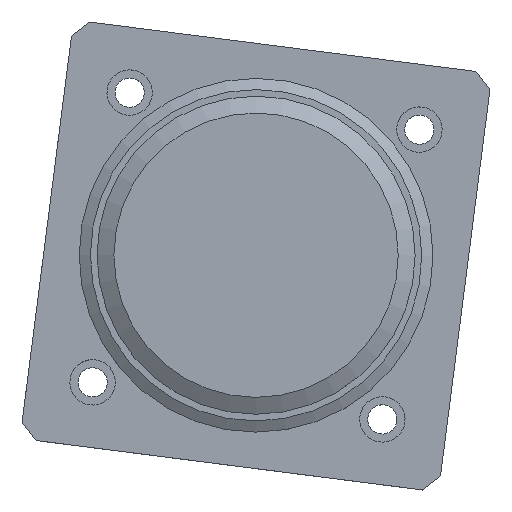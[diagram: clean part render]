
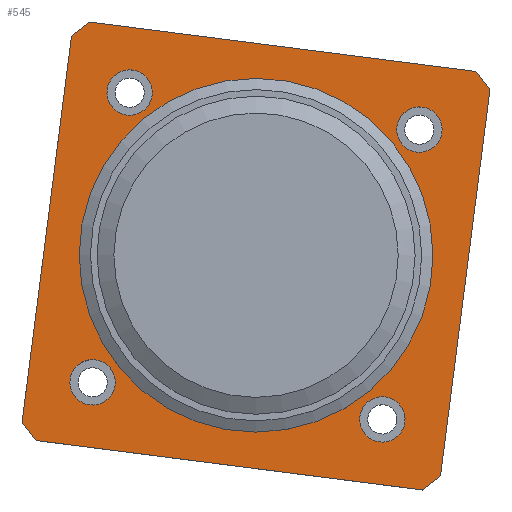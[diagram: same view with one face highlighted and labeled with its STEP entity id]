
A CAD part, top view. The second image highlights one B-rep face of the part: STEP entity #545.
In plain terms, the highlighted planar face has unit normal (0, 0, 1).
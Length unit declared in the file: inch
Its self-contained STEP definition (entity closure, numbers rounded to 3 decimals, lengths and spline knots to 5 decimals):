
#14=LINE('',#860,#38);
#15=LINE('',#862,#39);
#16=LINE('',#864,#40);
#17=LINE('',#866,#41);
#18=LINE('',#868,#42);
#19=LINE('',#870,#43);
#20=LINE('',#872,#44);
#21=LINE('',#873,#45);
#38=VECTOR('',#694,0.3937);
#39=VECTOR('',#695,0.3937);
#40=VECTOR('',#696,0.3937);
#41=VECTOR('',#697,0.3937);
#42=VECTOR('',#698,0.3937);
#43=VECTOR('',#699,0.3937);
#44=VECTOR('',#700,0.3937);
#45=VECTOR('',#701,0.3937);
#120=FACE_BOUND('',#201,.T.);
#121=FACE_BOUND('',#202,.T.);
#122=FACE_BOUND('',#203,.T.);
#123=FACE_BOUND('',#204,.T.);
#124=FACE_BOUND('',#205,.T.);
#157=FACE_OUTER_BOUND('',#200,.T.);
#200=EDGE_LOOP('',(#415,#416,#417,#418,#419,#420,#421,#422));
#201=EDGE_LOOP('',(#423));
#202=EDGE_LOOP('',(#424));
#203=EDGE_LOOP('',(#425));
#204=EDGE_LOOP('',(#426));
#205=EDGE_LOOP('',(#427));
#273=CIRCLE('',#610,0.27559);
#274=CIRCLE('',#611,0.27559);
#275=CIRCLE('',#612,0.27559);
#276=CIRCLE('',#613,0.27559);
#277=CIRCLE('',#614,1.85433);
#306=VERTEX_POINT('',#858);
#307=VERTEX_POINT('',#859);
#308=VERTEX_POINT('',#861);
#309=VERTEX_POINT('',#863);
#310=VERTEX_POINT('',#865);
#311=VERTEX_POINT('',#867);
#312=VERTEX_POINT('',#869);
#313=VERTEX_POINT('',#871);
#314=VERTEX_POINT('',#874);
#315=VERTEX_POINT('',#876);
#316=VERTEX_POINT('',#878);
#317=VERTEX_POINT('',#880);
#318=VERTEX_POINT('',#882);
#355=EDGE_CURVE('',#306,#307,#14,.T.);
#356=EDGE_CURVE('',#307,#308,#15,.T.);
#357=EDGE_CURVE('',#308,#309,#16,.T.);
#358=EDGE_CURVE('',#309,#310,#17,.T.);
#359=EDGE_CURVE('',#310,#311,#18,.T.);
#360=EDGE_CURVE('',#311,#312,#19,.T.);
#361=EDGE_CURVE('',#312,#313,#20,.T.);
#362=EDGE_CURVE('',#313,#306,#21,.T.);
#363=EDGE_CURVE('',#314,#314,#273,.T.);
#364=EDGE_CURVE('',#315,#315,#274,.T.);
#365=EDGE_CURVE('',#316,#316,#275,.T.);
#366=EDGE_CURVE('',#317,#317,#276,.T.);
#367=EDGE_CURVE('',#318,#318,#277,.T.);
#415=ORIENTED_EDGE('',*,*,#355,.T.);
#416=ORIENTED_EDGE('',*,*,#356,.T.);
#417=ORIENTED_EDGE('',*,*,#357,.T.);
#418=ORIENTED_EDGE('',*,*,#358,.T.);
#419=ORIENTED_EDGE('',*,*,#359,.T.);
#420=ORIENTED_EDGE('',*,*,#360,.T.);
#421=ORIENTED_EDGE('',*,*,#361,.T.);
#422=ORIENTED_EDGE('',*,*,#362,.T.);
#423=ORIENTED_EDGE('',*,*,#363,.T.);
#424=ORIENTED_EDGE('',*,*,#364,.T.);
#425=ORIENTED_EDGE('',*,*,#365,.T.);
#426=ORIENTED_EDGE('',*,*,#366,.T.);
#427=ORIENTED_EDGE('',*,*,#367,.T.);
#523=PLANE('',#609);
#545=ADVANCED_FACE('',(#157,#120,#121,#122,#123,#124),#523,.T.);
#609=AXIS2_PLACEMENT_3D('',#857,#692,#693);
#610=AXIS2_PLACEMENT_3D('',#875,#702,#703);
#611=AXIS2_PLACEMENT_3D('',#877,#704,#705);
#612=AXIS2_PLACEMENT_3D('',#879,#706,#707);
#613=AXIS2_PLACEMENT_3D('',#881,#708,#709);
#614=AXIS2_PLACEMENT_3D('',#883,#710,#711);
#692=DIRECTION('center_axis',(0.,0.,
1.));
#693=DIRECTION('ref_axis',(0.992,-0.127,0.));
#694=DIRECTION('',(-0.791,-0.612,0.));
#695=DIRECTION('',(-0.127,-0.992,0.));
#696=DIRECTION('',(0.612,-0.791,0.));
#697=DIRECTION('',(0.992,-0.127,0.));
#698=DIRECTION('',(0.791,0.612,0.));
#699=DIRECTION('',(0.127,0.992,0.));
#700=DIRECTION('',(-0.612,0.791,0.));
#701=DIRECTION('',(-0.992,0.127,0.));
#702=DIRECTION('center_axis',(0.,0.,
-1.));
#703=DIRECTION('ref_axis',(0.992,-0.127,0.));
#704=DIRECTION('center_axis',(0.,0.,
-1.));
#705=DIRECTION('ref_axis',(0.992,-0.127,0.));
#706=DIRECTION('center_axis',(0.,0.,
-1.));
#707=DIRECTION('ref_axis',(0.992,-0.127,0.));
#708=DIRECTION('center_axis',(0.,0.,
-1.));
#709=DIRECTION('ref_axis',(0.992,-0.127,0.));
#710=DIRECTION('center_axis',(0.,0.,
-1.));
#711=DIRECTION('ref_axis',(-0.992,0.127,0.));
#857=CARTESIAN_POINT('Origin',(10.9369,36.5075,3.34342));
#858=CARTESIAN_POINT('',(8.91839,39.34553,3.34405));
#859=CARTESIAN_POINT('',(8.69816,39.17524,3.34406));
#860=CARTESIAN_POINT('',(8.69816,39.17524,3.34406));
#861=CARTESIAN_POINT('',(8.09887,34.48899,3.34362));
#862=CARTESIAN_POINT('',(8.09887,34.48899,3.34362));
#863=CARTESIAN_POINT('',(8.26916,34.26876,3.34357));
#864=CARTESIAN_POINT('',(8.26916,34.26876,3.34357));
#865=CARTESIAN_POINT('',(12.9554,33.66946,3.3428));
#866=CARTESIAN_POINT('',(12.9554,33.66946,3.3428));
#867=CARTESIAN_POINT('',(13.17563,33.83975,3.34279));
#868=CARTESIAN_POINT('',(13.17563,33.83975,3.34279));
#869=CARTESIAN_POINT('',(13.77493,38.526,3.34323));
#870=CARTESIAN_POINT('',(13.77493,38.526,3.34323));
#871=CARTESIAN_POINT('',(13.60464,38.74623,3.34328));
#872=CARTESIAN_POINT('',(13.60464,38.74623,3.34328));
#873=CARTESIAN_POINT('',(8.91839,39.34553,3.34405));
#874=CARTESIAN_POINT('',(12.74287,34.49046,3.34292));
#875=CARTESIAN_POINT('Origin',(12.4695,34.52542,3.34297));
#876=CARTESIAN_POINT('',(9.67766,38.45462,3.34383));
#877=CARTESIAN_POINT('Origin',(9.40429,38.48957,3.34388));
#878=CARTESIAN_POINT('',(9.22818,34.93993,3.3435));
#879=CARTESIAN_POINT('Origin',(8.95482,34.97489,3.34354));
#880=CARTESIAN_POINT('',(13.19234,38.00514,3.34326));
#881=CARTESIAN_POINT('Origin',(12.91898,38.0401,3.3433));
#882=CARTESIAN_POINT('',(12.77625,36.27227,3.34312));
#883=CARTESIAN_POINT('Origin',(10.9369,36.5075,3.34342));
